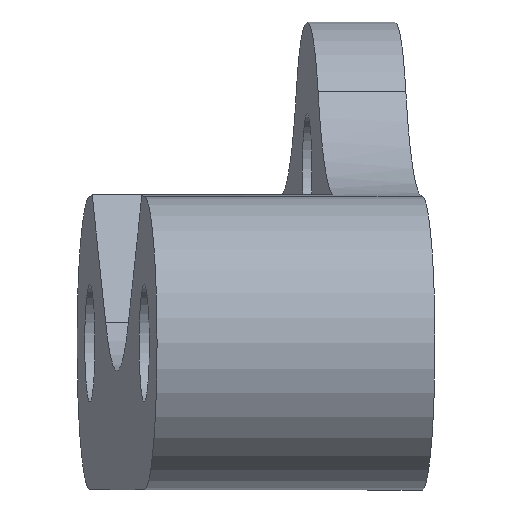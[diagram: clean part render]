
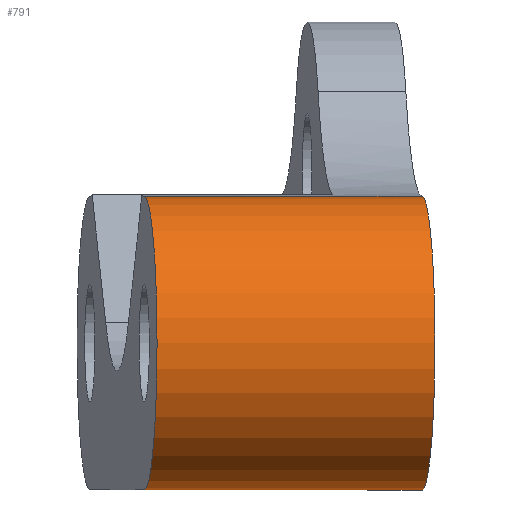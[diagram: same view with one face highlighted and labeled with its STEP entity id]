
A CAD part, front view. The second image highlights one B-rep face of the part: STEP entity #791.
In plain terms, the highlighted cylindrical face has radius 4 mm (diameter 8 mm), a partial arc.
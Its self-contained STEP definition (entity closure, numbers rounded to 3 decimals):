
#23=CYLINDRICAL_SURFACE('',#875,4.);
#80=FACE_OUTER_BOUND('',#124,.T.);
#124=EDGE_LOOP('',(#688,#689,#690,#691));
#173=LINE('',#1239,#242);
#194=LINE('',#1342,#263);
#242=VECTOR('',#975,10.);
#263=VECTOR('',#1074,10.);
#274=CIRCLE('',#815,4.);
#300=CIRCLE('',#876,4.);
#306=VERTEX_POINT('',#1110);
#307=VERTEX_POINT('',#1112);
#352=VERTEX_POINT('',#1237);
#374=VERTEX_POINT('',#1341);
#382=EDGE_CURVE('',#306,#307,#274,.T.);
#438=EDGE_CURVE('',#352,#306,#173,.T.);
#482=EDGE_CURVE('',#374,#307,#194,.T.);
#484=EDGE_CURVE('',#352,#374,#300,.T.);
#688=ORIENTED_EDGE('',*,*,#382,.F.);
#689=ORIENTED_EDGE('',*,*,#438,.F.);
#690=ORIENTED_EDGE('',*,*,#484,.T.);
#691=ORIENTED_EDGE('',*,*,#482,.T.);
#791=ADVANCED_FACE('',(#80),#23,.T.);
#815=AXIS2_PLACEMENT_3D('',#1113,#894,#895);
#875=AXIS2_PLACEMENT_3D('',#1344,#1076,#1077);
#876=AXIS2_PLACEMENT_3D('',#1345,#1078,#1079);
#894=DIRECTION('center_axis',(0.996,0.087,0.));
#895=DIRECTION('ref_axis',(0.,0.,
-1.));
#975=DIRECTION('',(0.996,0.087,0.));
#1074=DIRECTION('',(0.996,0.087,0.));
#1076=DIRECTION('center_axis',(-0.996,-0.087,0.));
#1077=DIRECTION('ref_axis',(0.,0.,
-1.));
#1078=DIRECTION('center_axis',(0.996,0.087,0.));
#1079=DIRECTION('ref_axis',(0.,0.,
-1.));
#1110=CARTESIAN_POINT('',(14.452,-7.268,68.999));
#1112=CARTESIAN_POINT('',(14.452,-7.268,60.999));
#1113=CARTESIAN_POINT('Origin',(14.452,-7.268,64.999));
#1237=CARTESIAN_POINT('',(6.881,-7.931,68.999));
#1239=CARTESIAN_POINT('',(8.874,-7.756,68.999));
#1341=CARTESIAN_POINT('',(6.881,-7.931,60.999));
#1342=CARTESIAN_POINT('',(8.874,-7.756,60.999));
#1344=CARTESIAN_POINT('Origin',(8.874,-7.756,64.999));
#1345=CARTESIAN_POINT('Origin',(6.881,-7.931,64.999));
